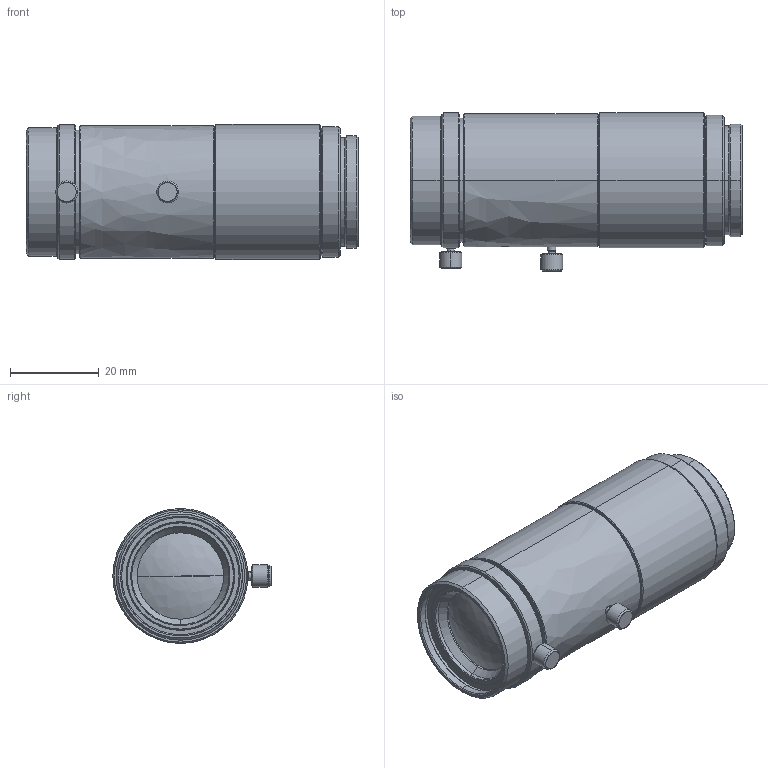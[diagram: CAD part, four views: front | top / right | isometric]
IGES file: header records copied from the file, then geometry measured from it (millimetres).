
Start section: SolidWorks IGES file using analytic representation for surfaces
Global section: file name: C:\Users\tsuji_vst\Documents\【図面】\_3D\00 VST\VS-LDA(APL)\VS-LDA75.IGS; native system: SolidWorks 2016; preprocessor: SolidWorks 2016; author: tsuji_vst; date: 161108.153357; units: millimetre
Bounding box: 75 x 35.75 x 30.5 mm (x, y, z)
Surface area: 11328.7 mm2 (no closed solid volume)
Topology: 0 solids, 0 shells, 152 faces, 2692 edges, 2690 vertices
Faces by surface type: revolution 126, bspline 26
